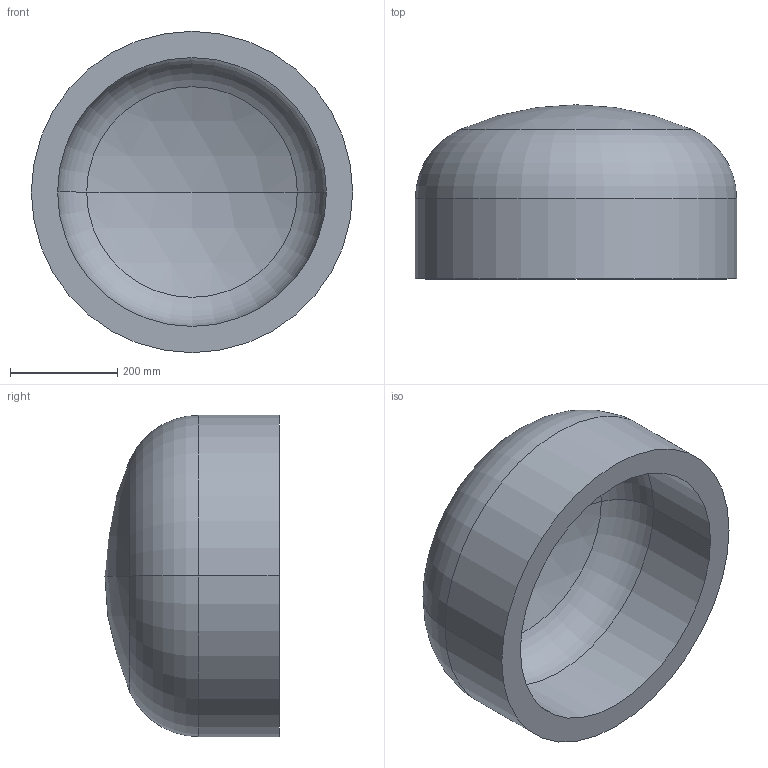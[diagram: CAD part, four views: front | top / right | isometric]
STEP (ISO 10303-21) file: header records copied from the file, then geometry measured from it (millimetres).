
FILE_DESCRIPTION (( 'STEP AP203' ), '1' );
FILE_NAME ('DIN 28013 Korbbogenform_-_Boden DIN 28013 - 600 x 150 - I - s=49.step', '2016-07-01T08:01:25', ( '' ), ( '' ), 'SwSTEP 2.0', 'SolidWorks 2013', '' );
FILE_SCHEMA (( 'CONFIG_CONTROL_DESIGN' ));
Length unit declared in the file: millimetre
Products named in the file (1): DIN 28013 Korbbogenform_-_Boden DIN 28013 - 600 x 150 - I - s=49
Bounding box: 600 x 325.07 x 600 mm (x, y, z)
Volume: 30028174.7 mm3; surface area: 1315488.1 mm2
Topology: 1 solids, 1 shells, 13 faces, 24 edges, 14 vertices
Faces by surface type: torus 4, cylinder 4, sphere 4, plane 1
Entity records: 407 total; most frequent: DIRECTION 72, CARTESIAN_POINT 52, ORIENTED_EDGE 48, AXIS2_PLACEMENT_3D 34, EDGE_CURVE 24, CIRCLE 20, EDGE_LOOP 14, VERTEX_POINT 14
